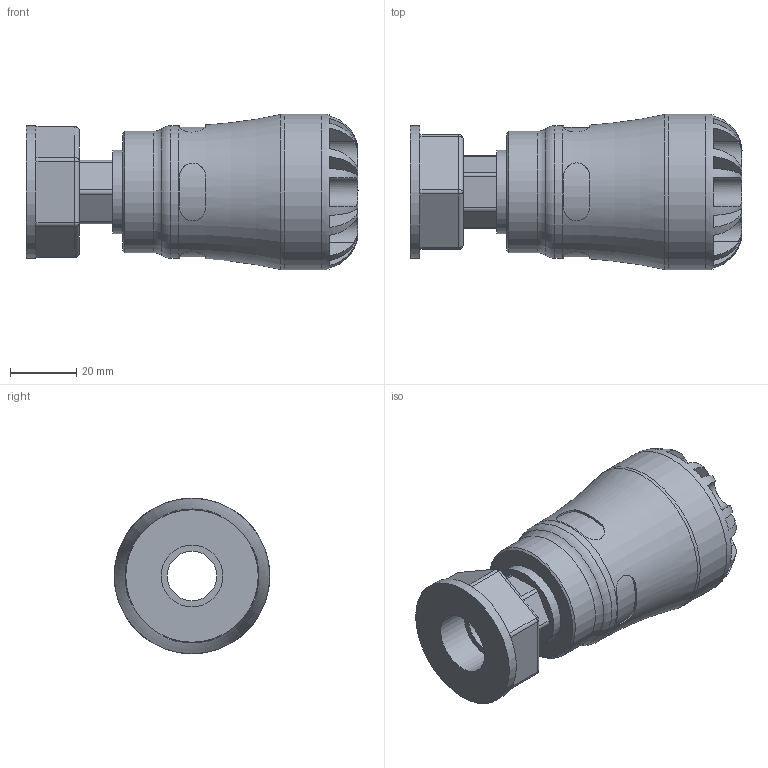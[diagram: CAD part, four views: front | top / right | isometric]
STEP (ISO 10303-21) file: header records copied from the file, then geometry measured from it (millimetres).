
FILE_DESCRIPTION(/* description */ ('PLASSON FEMALE ADAPTOR WITH FREE NUT 3/4''''CTS x 1'''''),/* implementation_level */ '2;1');
FILE_NAME(/* name */ 'C:\Dropbox\KIMPROJECTS-Inventor 2019\99-16-3568-Processing Inch\ASTM S1 2021\1003ZR\1003ZR007010.ipt.stp',/* time_stamp */ '2021-09-02T12:00:36+03:00',/* author */ ('KIM'),/* organization */ (''),/* preprocessor_version */ 'ST-DEVELOPER v17.2',/* originating_system */ 'Autodesk Inventor 2019',/* authorisation */ '');
FILE_SCHEMA (('AUTOMOTIVE_DESIGN { 1 0 10303 214 3 1 1 }'));
Length unit declared in the file: inch
Products named in the file (1): 1003ZR007010
Bounding box: 100.08 x 46.99 x 46.99 mm (x, y, z)
Volume: 85055.1 mm3; surface area: 26160.5 mm2
Topology: 2 solids, 2 shells, 152 faces, 389 edges, 252 vertices
Faces by surface type: plane 80, cylinder 58, sphere 6, torus 5, cone 3
Full cylindrical faces by diameter (mm): 14.905 x1, 17.699 x1, 18.417 x1, 18.631 x3, 22.1 x1, 25.211 x1, 36.652 x1, 39.941 x2, 46.99 x1
Entity records: 5670 total; most frequent: CARTESIAN_POINT 1730, DIRECTION 807, ORIENTED_EDGE 778, EDGE_CURVE 389, AXIS2_PLACEMENT_3D 329, VERTEX_POINT 252, CIRCLE 176, EDGE_LOOP 167
